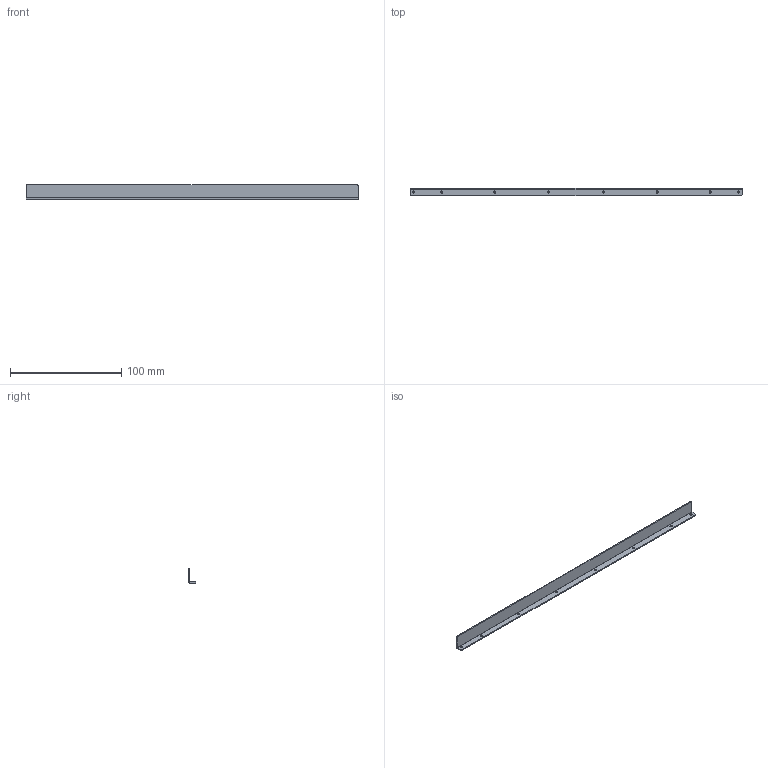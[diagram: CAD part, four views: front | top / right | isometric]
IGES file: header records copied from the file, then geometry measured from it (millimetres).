
Global section: file name: bottom_stiffener; native system: unknown; preprocessor: unknown; author: unknown; organization: unknown; date: 20250118.163106; units: inch
Bounding box: 298.45 x 6.35 x 12.7 mm (x, y, z)
Volume: 5363.6 mm3; surface area: 11246.2 mm2
Topology: 1 solids, 1 shells, 26 faces, 64 edges, 40 vertices
Faces by surface type: bspline 26
